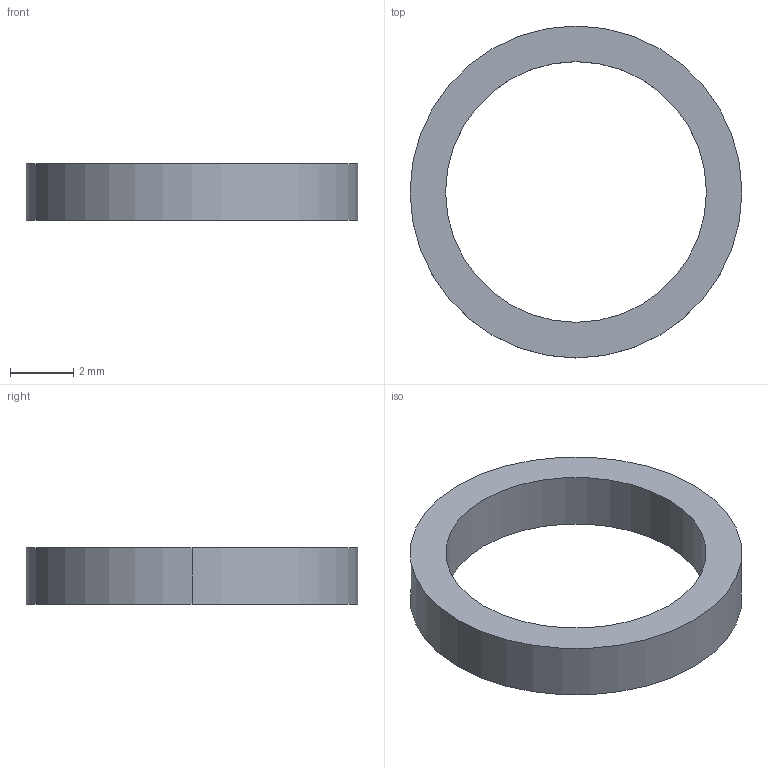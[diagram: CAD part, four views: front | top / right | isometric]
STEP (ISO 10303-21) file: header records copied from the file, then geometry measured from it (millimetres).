
FILE_DESCRIPTION (( 'STEP AP203' ), '1' );
FILE_NAME ('DBP_UPPER_ROLLER_GUIDE_hubshim.STEP', '2018-11-06T21:46:35', ( '' ), ( '' ), 'SwSTEP 2.0', 'SolidWorks 2015', '' );
FILE_SCHEMA (( 'CONFIG_CONTROL_DESIGN' ));
Length unit declared in the file: inch
Products named in the file (1): DBP_UPPER_ROLLER_GUIDE_hubshim
Bounding box: 10.5 x 10.5 x 1.8 mm (x, y, z)
Volume: 59.6 mm3; surface area: 172.3 mm2
Topology: 1 solids, 1 shells, 6 faces, 12 edges, 8 vertices
Faces by surface type: cylinder 4, plane 2
Entity records: 247 total; most frequent: DIRECTION 34, CARTESIAN_POINT 27, ORIENTED_EDGE 24, AXIS2_PLACEMENT_3D 15, EDGE_CURVE 12, PERSON_AND_ORGANIZATION 8, CIRCLE 8, VERTEX_POINT 8
